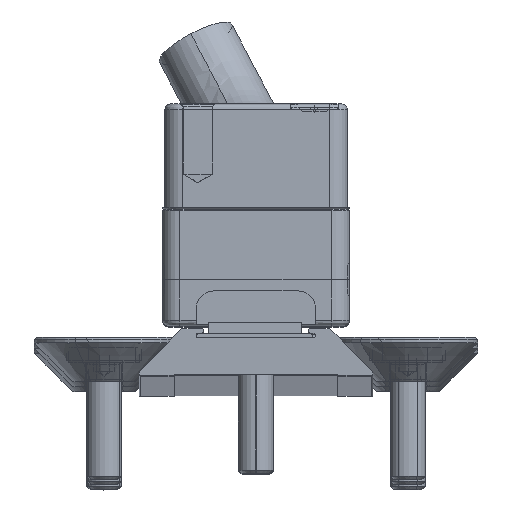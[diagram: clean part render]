
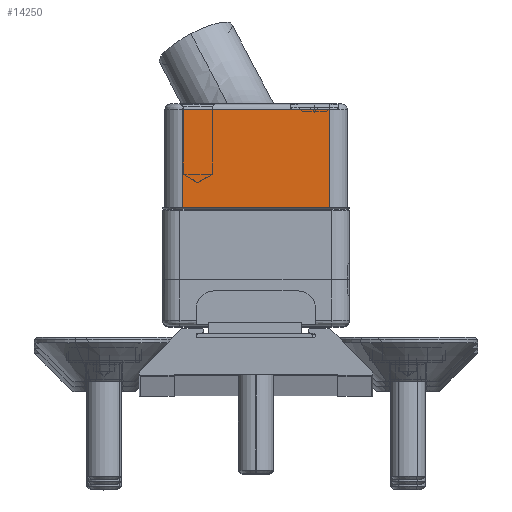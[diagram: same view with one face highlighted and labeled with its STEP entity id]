
A CAD part, top view. The second image highlights one B-rep face of the part: STEP entity #14250.
In plain terms, the highlighted planar face has unit normal (0, 0, 1) as drawn and (-1, 0, 0) by its records, which use the part's own axes.
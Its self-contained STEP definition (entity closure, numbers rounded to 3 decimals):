
#176 = ORIENTED_EDGE ( 'NONE', *, *, #10415, .T. ) ;
#455 = VECTOR ( 'NONE', #11280, 1000. ) ;
#535 = VERTEX_POINT ( 'NONE', #10344 ) ;
#1245 = ORIENTED_EDGE ( 'NONE', *, *, #6817, .T. ) ;
#1259 = VERTEX_POINT ( 'NONE', #8679 ) ;
#1899 = EDGE_LOOP ( 'NONE', ( #11142, #1245, #2427, #176 ) ) ;
#1963 = FACE_OUTER_BOUND ( 'NONE', #1899, .T. ) ;
#2319 = VERTEX_POINT ( 'NONE', #12758 ) ;
#2427 = ORIENTED_EDGE ( 'NONE', *, *, #15023, .T. ) ;
#2964 = CARTESIAN_POINT ( 'NONE',  ( 0., 18.5, 1.708 ) ) ;
#4096 = VECTOR ( 'NONE', #14807, 1000. ) ;
#4218 = LINE ( 'NONE', #7748, #6473 ) ;
#4700 = VERTEX_POINT ( 'NONE', #6303 ) ;
#5227 = LINE ( 'NONE', #6553, #455 ) ;
#6303 = CARTESIAN_POINT ( 'NONE',  ( 0., 18.5, 1.708 ) ) ;
#6473 = VECTOR ( 'NONE', #6786, 1000. ) ;
#6553 = CARTESIAN_POINT ( 'NONE',  ( 0., 19., 1.708 ) ) ;
#6786 = DIRECTION ( 'NONE',  ( 0., 0., 1. ) ) ;
#6817 = EDGE_CURVE ( 'NONE', #535, #4700, #13613, .T. ) ;
#7733 = DIRECTION ( 'NONE',  ( 0., 0., -1. ) ) ;
#7748 = CARTESIAN_POINT ( 'NONE',  ( 0., 10.1, 1.708 ) ) ;
#7896 = LINE ( 'NONE', #11374, #4096 ) ;
#8679 = CARTESIAN_POINT ( 'NONE',  ( 0., 10.1, 14.325 ) ) ;
#9047 = DIRECTION ( 'NONE',  ( 1., 0., 0. ) ) ;
#9099 = EDGE_CURVE ( 'NONE', #535, #1259, #7896, .T. ) ;
#9206 = CARTESIAN_POINT ( 'NONE',  ( 0., 19., 1.708 ) ) ;
#9506 = AXIS2_PLACEMENT_3D ( 'NONE', #9206, #9047, #10135 ) ;
#10135 = DIRECTION ( 'NONE',  ( 0., 1., 0. ) ) ;
#10170 = VECTOR ( 'NONE', #7733, 1000. ) ;
#10344 = CARTESIAN_POINT ( 'NONE',  ( 0., 18.5, 14.325 ) ) ;
#10415 = EDGE_CURVE ( 'NONE', #2319, #1259, #4218, .T. ) ;
#11142 = ORIENTED_EDGE ( 'NONE', *, *, #9099, .F. ) ;
#11280 = DIRECTION ( 'NONE',  ( 0., -1., 0. ) ) ;
#11374 = CARTESIAN_POINT ( 'NONE',  ( 0., 19., 14.325 ) ) ;
#12517 = PLANE ( 'NONE',  #9506 ) ;
#12758 = CARTESIAN_POINT ( 'NONE',  ( 0., 10.1, 1.708 ) ) ;
#13613 = LINE ( 'NONE', #2964, #10170 ) ;
#14250 = ADVANCED_FACE ( 'NONE', ( #1963 ), #12517, .F. ) ;
#14807 = DIRECTION ( 'NONE',  ( 0., -1., 0. ) ) ;
#15023 = EDGE_CURVE ( 'NONE', #4700, #2319, #5227, .T. ) ;
